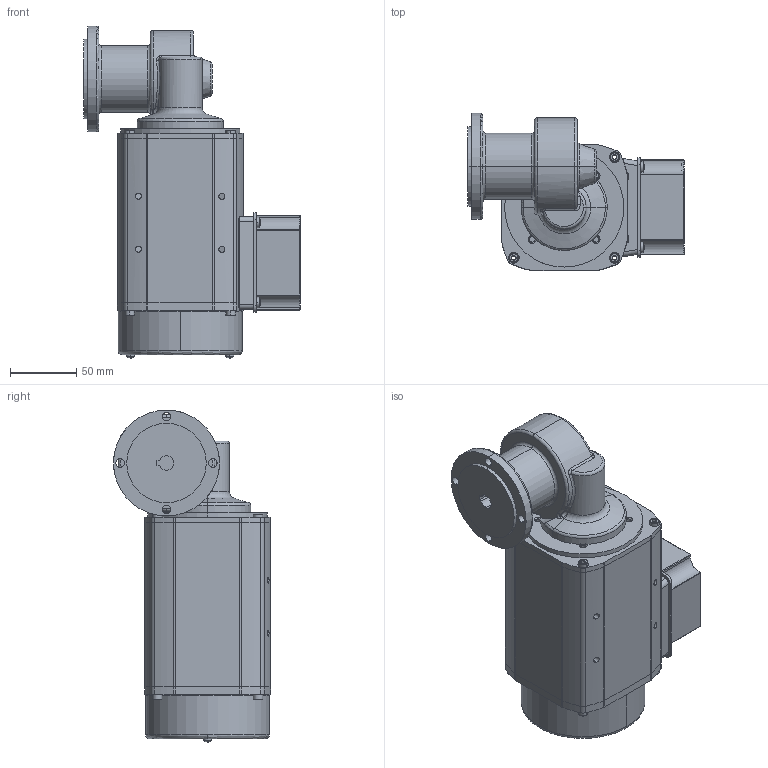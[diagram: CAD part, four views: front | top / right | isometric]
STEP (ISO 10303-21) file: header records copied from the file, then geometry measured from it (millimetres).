
FILE_DESCRIPTION (( 'STEP AP203' ), '1' );
FILE_NAME ('SN5FLHG-120W-B.STEP', '2017-04-18T10:25:51', ( '' ), ( '' ), 'SwSTEP 2.0', 'SolidWorks 2015', '' );
FILE_SCHEMA (( 'CONFIG_CONTROL_DESIGN' ));
Length unit declared in the file: millimetre
Products named in the file (3): NU9065 oF; SN5FLHG-120W-B; SN5FLH-Lose
Assembly tree (2 placements, depth 2):
  SN5FLHG-120W-B
    SN5FLH-Lose
    NU9065 oF
Bounding box: 163.2 x 118.5 x 250.57 mm (x, y, z)
Volume: 314266.5 mm3; surface area: 147248.7 mm2
Topology: 1 solids, 103 shells, 611 faces, 2181 edges, 1646 vertices
Faces by surface type: cylinder 238, plane 188, bspline 84, cone 77, torus 24
Entity records: 31579 total; most frequent: CARTESIAN_POINT 13729, DIRECTION 3480, ORIENTED_EDGE 3298, EDGE_CURVE 2179, VERTEX_POINT 1646, AXIS2_PLACEMENT_3D 1299, VECTOR 882, LINE 882
